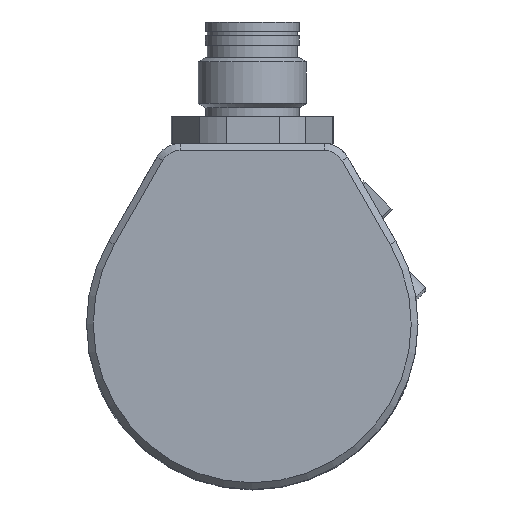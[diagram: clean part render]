
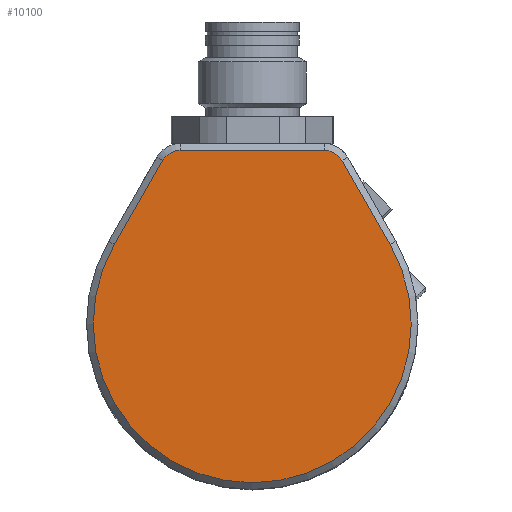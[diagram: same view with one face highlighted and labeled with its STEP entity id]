
A CAD part, top view. The second image highlights one B-rep face of the part: STEP entity #10100.
In plain terms, the highlighted planar face has unit normal (0, 0, 1).
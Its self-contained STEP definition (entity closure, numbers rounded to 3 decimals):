
#182=PLANE('',#10838);
#493=LINE('',#14860,#892);
#499=LINE('',#14880,#898);
#501=LINE('',#14885,#900);
#892=VECTOR('',#12400,1000.);
#898=VECTOR('',#12420,1000.);
#900=VECTOR('',#12424,1000.);
#2404=ORIENTED_EDGE('',*,*,#3615,.T.);
#2405=ORIENTED_EDGE('',*,*,#3611,.T.);
#2406=ORIENTED_EDGE('',*,*,#3617,.T.);
#2407=ORIENTED_EDGE('',*,*,#3623,.T.);
#2408=ORIENTED_EDGE('',*,*,#3625,.T.);
#2409=ORIENTED_EDGE('',*,*,#3621,.T.);
#3611=EDGE_CURVE('',#4369,#4368,#493,.T.);
#3615=EDGE_CURVE('',#4370,#4369,#4875,.T.);
#3617=EDGE_CURVE('',#4368,#4373,#4876,.T.);
#3621=EDGE_CURVE('',#4374,#4370,#499,.T.);
#3623=EDGE_CURVE('',#4373,#4377,#501,.T.);
#3625=EDGE_CURVE('',#4377,#4374,#4878,.T.);
#4368=VERTEX_POINT('',#14859);
#4369=VERTEX_POINT('',#14861);
#4370=VERTEX_POINT('',#14865);
#4373=VERTEX_POINT('',#14872);
#4374=VERTEX_POINT('',#14877);
#4377=VERTEX_POINT('',#14884);
#4875=CIRCLE('',#10808,2.25);
#4876=CIRCLE('',#10810,2.25);
#4878=CIRCLE('',#10815,17.65);
#5459=EDGE_LOOP('',(#2404,#2405,#2406,#2407,#2408,#2409));
#6171=FACE_BOUND('',#5459,.T.);
#10100=ADVANCED_FACE('',(#6171),#182,.T.);
#10808=AXIS2_PLACEMENT_3D('',#14868,#12407,#12408);
#10810=AXIS2_PLACEMENT_3D('',#14873,#12412,#12413);
#10815=AXIS2_PLACEMENT_3D('',#14888,#12428,#12429);
#10838=AXIS2_PLACEMENT_3D('',#15058,#12484,#12485);
#12400=DIRECTION('',(-1.,0.,0.));
#12407=DIRECTION('',(0.,0.,1.));
#12408=DIRECTION('',(1.,0.,0.));
#12412=DIRECTION('',(0.,0.,1.));
#12413=DIRECTION('',(1.,0.,0.));
#12420=DIRECTION('',(-0.498,0.867,0.));
#12424=DIRECTION('',(-0.498,-0.867,0.));
#12428=DIRECTION('',(0.,0.,1.));
#12429=DIRECTION('',(1.,0.,0.));
#12484=DIRECTION('',(0.,0.,1.));
#12485=DIRECTION('',(1.,0.,0.));
#14859=CARTESIAN_POINT('',(-8.,19.25,48.1));
#14860=CARTESIAN_POINT('',(-8.,19.25,48.1));
#14861=CARTESIAN_POINT('',(8.,19.25,48.1));
#14865=CARTESIAN_POINT('',(9.952,18.12,48.1));
#14868=CARTESIAN_POINT('',(8.,17.,48.1));
#14872=CARTESIAN_POINT('',(-9.951,18.12,48.1));
#14873=CARTESIAN_POINT('',(-8.,17.,48.1));
#14877=CARTESIAN_POINT('',(15.309,8.785,48.1));
#14880=CARTESIAN_POINT('',(9.952,18.12,48.1));
#14884=CARTESIAN_POINT('',(-15.308,8.785,48.1));
#14885=CARTESIAN_POINT('',(-15.308,8.785,48.1));
#14888=CARTESIAN_POINT('',(0.,0.,48.1));
#15058=CARTESIAN_POINT('',(0.,0.,48.1));
